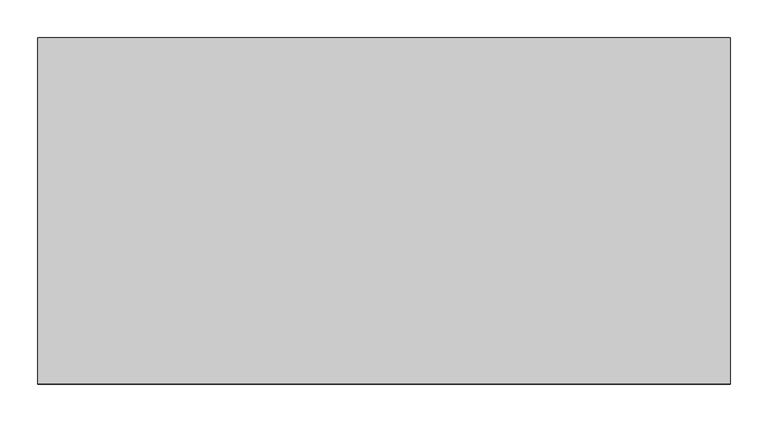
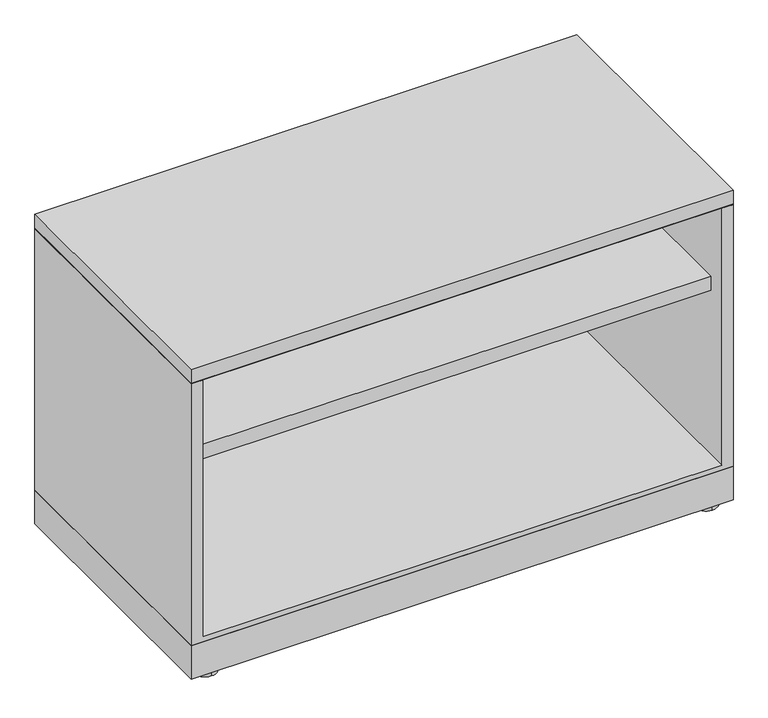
"""IFC4 building model written with IfcOpenShell, lengths in millimetres: furniture geometry, Steelcase - Universal Storage - Lateral File - 1.5 High - Flush Steel : Open/Open - 18D x 36W."""

from ifc_helpers import new_model, si_unit, point, frame, frame_2d, origin, origin_with_axes, place, context, project, spatial, polyline, circle_curve, trimmed, segment, composite_curve, outline, extrude, faceted_brep, source, transform, mapped, element, save


def furniture_ff35e457(model_context):
    return source(origin(), model_context, "Body", "SolidModel", [
        extrude(outline(polyline([(914.4, 457.2), (914.4, 0.0), (0.0, 0.0), (0.0, 457.2), (914.4, 457.2)])), frame((0.0, 0.0, 6.3500002), z_axis=(0.0, 0.0, 1.0), x_axis=(1.0, 0.0, 0.0)), (0.0, 0.0, 1.0), 59.6899998),
        extrude(outline(composite_curve([segment(trimmed(circle_curve(frame_2d((879.7290058, 434.8633666)), 20.32), [point((879.7290058, 414.5433666))], [point((879.7290058, 455.1833666))], False, "CARTESIAN"), True, "CONTINUOUS"), segment(trimmed(circle_curve(frame_2d((879.7290058, 434.8633666)), 20.32), [point((879.7290058, 455.1833666))], [point((879.7290058, 414.5433666))], False, "CARTESIAN"), True, "CONTINUOUS")], self_intersect=False)), origin_with_axes(), (0.0, 0.0, 1.0), 6.3500002),
        extrude(outline(composite_curve([segment(trimmed(circle_curve(frame_2d((879.7290058, 20.7491455)), 20.32), [point((879.7290058, 0.4291455))], [point((879.7290058, 41.0691455))], False, "CARTESIAN"), True, "CONTINUOUS"), segment(trimmed(circle_curve(frame_2d((879.7290058, 20.7491455)), 20.32), [point((879.7290058, 41.0691455))], [point((879.7290058, 0.4291455))], False, "CARTESIAN"), True, "CONTINUOUS")], self_intersect=False)), origin_with_axes(), (0.0, 0.0, 1.0), 6.3500002),
        extrude(outline(composite_curve([segment(trimmed(circle_curve(frame_2d((34.29, 434.8633666)), 20.32), [point((34.29, 455.1833666))], [point((34.29, 414.5433666))], False, "CARTESIAN"), True, "CONTINUOUS"), segment(trimmed(circle_curve(frame_2d((34.29, 434.8633666)), 20.32), [point((34.29, 414.5433666))], [point((34.29, 455.1833666))], False, "CARTESIAN"), True, "CONTINUOUS")], self_intersect=False)), origin_with_axes(), (0.0, 0.0, 1.0), 6.3500002),
        extrude(outline(composite_curve([segment(trimmed(circle_curve(frame_2d((34.29, 20.7491455)), 20.32), [point((34.29, 41.0691455))], [point((34.29, 0.4291455))], False, "CARTESIAN"), True, "CONTINUOUS"), segment(trimmed(circle_curve(frame_2d((34.29, 20.7491455)), 20.32), [point((34.29, 0.4291455))], [point((34.29, 41.0691455))], False, "CARTESIAN"), True, "CONTINUOUS")], self_intersect=False)), origin_with_axes(), (0.0, 0.0, 1.0), 6.3500002),
        extrude(outline(polyline([(437.7944128, 396.7988176), (437.7944128, 410.7687861), (440.969412, 410.7687861), (440.969412, 371.5257963), (26.822418, 371.5257963), (26.822418, 396.7988176), (437.7944128, 396.7988176)])), frame((22.0472, 0.0, 0.0), z_axis=(1.0, 0.0, 0.0), x_axis=(0.0, 1.0, 0.0)), (0.0, 0.0, 1.0), 870.3056),
        extrude(outline(polyline([(1.45e-05, 534.0350121), (457.2, 534.0350121), (456.4379879, 533.273), (0.7620266, 533.273), (1.45e-05, 534.0350121)])), frame((0.0, 0.0, 0.0), z_axis=(1.0, 0.0, 0.0), x_axis=(0.0, 1.0, 0.0)), (0.0, 0.0, 1.0), 914.4),
        extrude(outline(polyline([(914.4, 457.2), (914.4, 0.0), (0.0, 0.0), (0.0, 457.2), (914.4, 457.2)])), frame((0.0, 0.0, 534.0350121), z_axis=(0.0, 0.0, 1.0), x_axis=(1.0, 0.0, 0.0)), (0.0, 0.0, 1.0), 24.6379729),
        faceted_brep([(914.4, 0.0, 66.04), (914.4, 457.2, 66.04), (914.4, 457.2, 533.273), (914.4, 0.0, 533.273), (0.0, 0.0, 533.273), (0.0, 457.2, 533.273), (0.0, 457.2, 66.04), (0.0, 0.0, 66.04), (895.35, 0.0, 533.273), (895.35, 0.0, 75.1586), (19.05, 0.0, 75.1586), (19.05, 0.0, 533.273), (19.05, 454.0249999, 533.273), (895.35, 454.0249999, 533.273), (19.05, 454.0249999, 75.1586), (895.35, 454.0249999, 75.1586)], [[[0, 1, 2, 3]], [[4, 5, 6, 7]], [[0, 3, 8, 9, 10, 11, 4, 7]], [[2, 1, 6, 5]], [[3, 2, 5, 4, 11, 12, 13, 8]], [[12, 14, 15, 13]], [[14, 12, 11, 10]], [[13, 15, 9, 8]], [[1, 0, 7, 6]], [[10, 9, 15, 14]]]),
    ])


if __name__ == "__main__":
    model = new_model("IFC4")
    model_context = context("Model", 3, world=origin())
    ifc_project = project(units=[si_unit("LENGTHUNIT", "METRE", prefix="MILLI")], contexts=[model_context])
    site = spatial("IfcSite", under=ifc_project)
    building = spatial("IfcBuilding", under=site)
    placement = place(None, origin())
    furniture_shape = furniture_ff35e457(model_context)
    element("IfcFurniture", 1, ObjectType="Steelcase - Universal Storage - Lateral File - 1.5 High - Flush Steel : Open/Open - 18D x 36W", at=placement, inside=building, context=model_context, shape_type="MappedRepresentation", body=[
        mapped(furniture_shape, transform((0.0, 0.0, 0.0), x_axis=(1.0, 0.0, 0.0), y_axis=(0.0, 1.0, 0.0), z_axis=(0.0, 0.0, 1.0))),
    ])
    save(model, "model.ifc")
